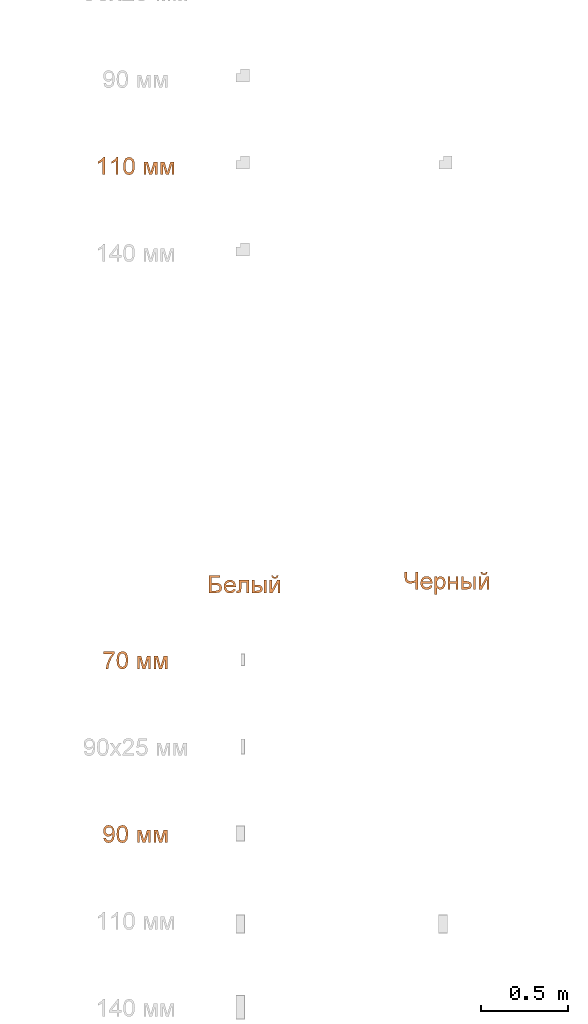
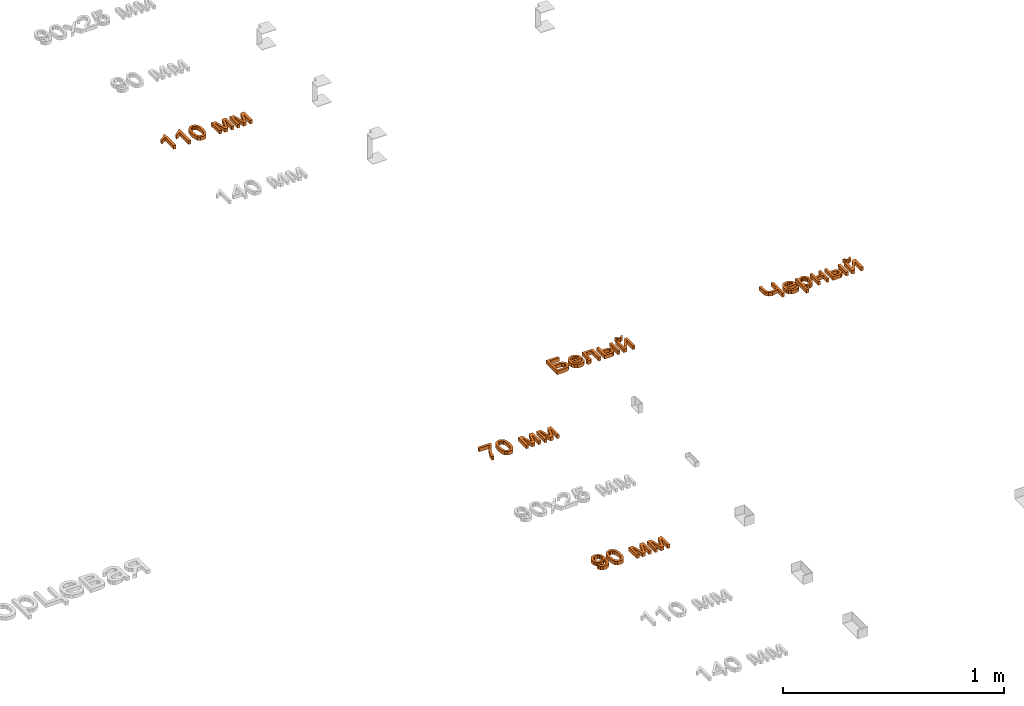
# One storey, part 38 of 87: 5 proxies.
"""IFC2X3 building model written with IfcOpenShell, lengths in millimetres."""

from ifc_helpers import new_model, entity, si_unit, converted_unit, derived_unit, direction, frame, frame_2d, origin, place, context, subcontext, project, spatial, polyline, rectangle, outline, extrude, element, save


model = new_model("IFC2X3")

# Units and contexts
model_context = context("Model", 3, precision=0.01, world=origin(), true_north=direction((6.12303176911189e-17, 1.0)))
body_context = subcontext(model_context, "Body", "Model", "MODEL_VIEW")
ifc_project = project(units=[si_unit("LENGTHUNIT", "METRE", prefix="MILLI"), si_unit("AREAUNIT", "SQUARE_METRE"), si_unit("VOLUMEUNIT", "CUBIC_METRE"), converted_unit("PLANEANGLEUNIT", "DEGREE", entity("IfcRatioMeasure", 0.0174532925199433), si_unit("PLANEANGLEUNIT", "RADIAN"), dimensions=[0, 0, 0, 0, 0, 0, 0]), si_unit("MASSUNIT", "GRAM", prefix="KILO"), derived_unit("MASSDENSITYUNIT", [(si_unit("MASSUNIT", "GRAM", prefix="KILO"), 1), (si_unit("LENGTHUNIT", "METRE"), -3)]), si_unit("TIMEUNIT", "SECOND"), si_unit("FREQUENCYUNIT", "HERTZ"), si_unit("THERMODYNAMICTEMPERATUREUNIT", "DEGREE_CELSIUS"), derived_unit("THERMALTRANSMITTANCEUNIT", [(si_unit("MASSUNIT", "GRAM", prefix="KILO"), 1), (si_unit("THERMODYNAMICTEMPERATUREUNIT", "KELVIN"), -1), (si_unit("TIMEUNIT", "SECOND"), -3)]), derived_unit("VOLUMETRICFLOWRATEUNIT", [(si_unit("LENGTHUNIT", "METRE"), 3), (si_unit("TIMEUNIT", "SECOND"), -1)]), si_unit("ELECTRICCURRENTUNIT", "AMPERE"), si_unit("ELECTRICVOLTAGEUNIT", "VOLT"), si_unit("POWERUNIT", "WATT"), si_unit("FORCEUNIT", "NEWTON", prefix="KILO"), si_unit("ILLUMINANCEUNIT", "LUX"), si_unit("LUMINOUSFLUXUNIT", "LUMEN"), si_unit("LUMINOUSINTENSITYUNIT", "CANDELA"), derived_unit("USERDEFINED", [(si_unit("MASSUNIT", "GRAM", prefix="KILO"), -1), (si_unit("LENGTHUNIT", "METRE"), -2), (si_unit("TIMEUNIT", "SECOND"), 3), (si_unit("LUMINOUSFLUXUNIT", "LUMEN"), 1)]), derived_unit("LINEARVELOCITYUNIT", [(si_unit("LENGTHUNIT", "METRE"), 1), (si_unit("TIMEUNIT", "SECOND"), -1)]), si_unit("PRESSUREUNIT", "PASCAL"), derived_unit("USERDEFINED", [(si_unit("LENGTHUNIT", "METRE"), -2), (si_unit("MASSUNIT", "GRAM", prefix="KILO"), 1), (si_unit("TIMEUNIT", "SECOND"), -2)])], contexts=[model_context])

# Site, building, storey
site_placement = place(None, origin())
site = spatial("IfcSite", under=ifc_project, at=site_placement, Name="Default", CompositionType="ELEMENT")
building_placement = place(site_placement, origin())
building = spatial("IfcBuilding", under=site, at=building_placement, Name="Наименование здания", CompositionType="ELEMENT")
storey_placement = place(building_placement, origin())
storey = spatial("IfcBuildingStorey", under=building, at=storey_placement, Name="Этаж 01", CompositionType="ELEMENT", Elevation=0.0)

# Proxies
proxy_1_placement = place(storey_placement, origin())
element("IfcBuildingElementProxy", 1, at=proxy_1_placement, inside=storey, Name="Текст модели:100 мм Arial", ObjectType="Текст модели:100 мм Arial", context=body_context, shape_type="SweptSolid", body=[
    extrude(outline(polyline([(-63.8793021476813, -16.9184842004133), (36.577008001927, -16.9184842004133), (36.577008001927, -8.82508030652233), (23.2106288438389, 2.34626961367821), (11.4629304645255, 20.7526321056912), (-0.407395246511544, 20.7526321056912), (5.93243780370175, 7.53340574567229), (14.4059864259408, -4.36144543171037), (-63.8793021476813, -4.36144543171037), (-63.8793021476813, -16.9184842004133)])), frame((12193.7741888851, -14659.1581208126, 0.0), z_axis=(0.0, 0.0, 1.0), x_axis=(0.0, 1.0, 0.0)), (0.0, 0.0, 1.0), 20.0),
    extrude(outline(polyline([(-63.8793021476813, -16.9184842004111), (36.577008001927, -16.9184842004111), (36.577008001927, -8.82508030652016), (23.2106288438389, 2.34626961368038), (11.4629304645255, 20.7526321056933), (-0.407395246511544, 20.7526321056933), (5.93243780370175, 7.53340574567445), (14.4059864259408, -4.3614454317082), (-63.8793021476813, -4.3614454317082), (-63.8793021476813, -16.9184842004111)])), frame((12270.6860513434, -14659.1581208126, 0.0), z_axis=(0.0, 0.0, 1.0), x_axis=(0.0, 1.0, 0.0)), (0.0, 0.0, 1.0), 20.0),
    extrude(outline(polyline([(-7.02884310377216, -33.3490673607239), (17.5323805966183, -33.3490673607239), (35.1984171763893, -27.6137612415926), (43.3439841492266, -18.4876517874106), (47.0516941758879, -5.75150665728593), (46.7162020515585, 4.4863820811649), (43.4465778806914, 13.0955287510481), (27.9444305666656, 25.6659118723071), (-0.314338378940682, 32.2325535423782), (-24.0296505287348, 32.3678288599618), (-39.4143020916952, 28.0260881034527), (-49.7293680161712, 18.9002174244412), (-54.4436715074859, 4.63998875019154), (-50.8676582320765, -14.1301059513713), (-35.4058547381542, -26.7333390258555), (-7.02884310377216, -33.3490673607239)]), holes=[polyline([(-5.77428774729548, -20.8548320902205), (-25.015764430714, -17.3562860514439), (-36.7257089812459, -11.5717922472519), (-41.096258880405, -4.77599682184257), (-41.9669219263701, 3.21464792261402), (-39.2244253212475, 11.2791292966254), (-32.865406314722, 17.2229259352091), (-20.969837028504, 20.2947501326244), (-1.61768958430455, 19.7433141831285), (17.8514140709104, 16.2707701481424), (28.7803640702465, 10.7141596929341), (33.5546988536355, 3.61815959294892), (34.5599568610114, -4.47255337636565), (31.9421230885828, -12.1923199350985), (25.8471825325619, -18.1754808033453), (14.0250679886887, -21.4027476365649), (-5.77428774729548, -20.8548320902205)])]), frame((12351.319040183, -14677.21424602, 0.0), z_axis=(0.0, 0.0, 1.0), x_axis=(0.1018515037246, -0.994799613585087, 0.0)), (0.0, 0.0, 1.0), 20.0),
    extrude(outline(polyline([(-40.5839870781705, -38.4502715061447), (33.1886156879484, -38.4502715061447), (33.1886156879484, -25.893232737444), (-29.0570178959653, -25.893232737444), (33.1886156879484, -8.6273044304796), (33.1886156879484, 7.85380895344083), (-26.2120637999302, 25.9045521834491), (33.1886156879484, 25.9045521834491), (33.1886156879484, 38.4615909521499), (-40.5839870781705, 38.4615909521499), (-40.5839870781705, 17.7620973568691), (18.4733358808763, -0.190544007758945), (-40.5839870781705, -16.8433356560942), (-40.5839870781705, -38.4502715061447)])), frame((12475.1696424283, -14689.8488072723, 0.0), z_axis=(0.0, 0.0, 1.0), x_axis=(0.0, -1.0, 0.0)), (0.0, 0.0, 1.0), 20.0),
    extrude(outline(polyline([(-40.5839870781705, -38.4502715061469), (33.1886156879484, -38.4502715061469), (33.1886156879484, -25.8932327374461), (-29.0570178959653, -25.8932327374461), (33.1886156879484, -8.62730443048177), (33.1886156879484, 7.85380895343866), (-26.2120637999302, 25.904552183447), (33.1886156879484, 25.904552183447), (33.1886156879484, 38.4615909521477), (-40.5839870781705, 38.4615909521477), (-40.5839870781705, 17.762097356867), (18.4733358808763, -0.19054400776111), (-40.5839870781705, -16.8433356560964), (-40.5839870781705, -38.4502715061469)])), frame((12570.9170630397, -14689.8488072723, 0.0), z_axis=(0.0, 0.0, 1.0), x_axis=(0.0, -1.0, 0.0)), (0.0, 0.0, 1.0), 20.0),
])
proxy_2_placement = place(storey_placement, origin())
element("IfcBuildingElementProxy", 2, at=proxy_2_placement, inside=storey, Name="Текст модели:100 мм Arial", ObjectType="Текст модели:100 мм Arial", context=body_context, shape_type="SweptSolid", body=[
    extrude(outline(polyline([(-33.1249866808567, -28.4339338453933), (-33.1249866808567, -40.9909726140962), (32.7994668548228, -40.9909726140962), (32.7994668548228, -30.8374295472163), (14.0987987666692, -3.8226283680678), (-0.211810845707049, 30.5988636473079), (-4.87164945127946, 57.8957076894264), (-17.4286882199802, 57.8957076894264), (-12.4377558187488, 29.5687940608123), (1.2597171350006, -2.44920225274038), (20.2424280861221, -28.4339338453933), (-33.1249866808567, -28.4339338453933)])), frame((12235.1846956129, -17508.5531781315, 0.0), z_axis=(0.0, 0.0, -1.0), x_axis=(1.0, 0.0, 0.0)), (0.0, 0.0, -1.0), 20.0),
    extrude(outline(polyline([(-7.02884310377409, -33.3490673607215), (17.5323805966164, -33.3490673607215), (35.1984171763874, -27.6137612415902), (43.3439841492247, -18.4876517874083), (47.0516941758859, -5.75150665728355), (46.7162020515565, 4.48638208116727), (43.4465778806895, 13.0955287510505), (27.9444305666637, 25.6659118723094), (-0.314338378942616, 32.2325535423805), (-24.0296505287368, 32.3678288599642), (-39.4143020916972, 28.0260881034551), (-49.7293680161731, 18.9002174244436), (-54.4436715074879, 4.63998875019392), (-50.8676582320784, -14.1301059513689), (-35.4058547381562, -26.7333390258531), (-7.02884310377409, -33.3490673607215)]), holes=[polyline([(-5.77428774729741, -20.8548320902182), (-25.0157644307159, -17.3562860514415), (-36.7257089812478, -11.5717922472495), (-41.0962588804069, -4.7759968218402), (-41.966921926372, 3.21464792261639), (-39.2244253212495, 11.2791292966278), (-32.8654063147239, 17.2229259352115), (-20.969837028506, 20.2947501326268), (-1.61768958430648, 19.7433141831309), (17.8514140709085, 16.2707701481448), (28.7803640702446, 10.7141596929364), (33.5546988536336, 3.61815959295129), (34.5599568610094, -4.47255337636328), (31.9421230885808, -12.1923199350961), (25.84718253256, -18.1754808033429), (14.0250679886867, -21.4027476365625), (-5.77428774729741, -20.8548320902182)])]), frame((12312.8631089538, -17520.6257088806, 0.0), z_axis=(0.0, 0.0, 1.0), x_axis=(0.1018515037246, -0.994799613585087, 0.0)), (0.0, 0.0, 1.0), 20.0),
    extrude(outline(polyline([(-40.5839870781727, -38.4502715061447), (33.1886156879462, -38.4502715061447), (33.1886156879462, -25.893232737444), (-29.0570178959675, -25.893232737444), (33.1886156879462, -8.6273044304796), (33.1886156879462, 7.85380895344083), (-26.2120637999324, 25.9045521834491), (33.1886156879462, 25.9045521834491), (33.1886156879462, 38.4615909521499), (-40.5839870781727, 38.4615909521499), (-40.5839870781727, 17.7620973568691), (18.4733358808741, -0.190544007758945), (-40.5839870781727, -16.8433356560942), (-40.5839870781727, -38.4502715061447)])), frame((12436.7137111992, -17533.260270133, 0.0), z_axis=(0.0, 0.0, 1.0), x_axis=(0.0, -1.0, 0.0)), (0.0, 0.0, 1.0), 20.0),
    extrude(outline(polyline([(-40.5839870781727, -38.4502715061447), (33.1886156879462, -38.4502715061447), (33.1886156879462, -25.893232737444), (-29.0570178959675, -25.893232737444), (33.1886156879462, -8.6273044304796), (33.1886156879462, 7.85380895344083), (-26.2120637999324, 25.904552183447), (33.1886156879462, 25.904552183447), (33.1886156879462, 38.4615909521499), (-40.5839870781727, 38.4615909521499), (-40.5839870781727, 17.7620973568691), (18.4733358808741, -0.190544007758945), (-40.5839870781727, -16.8433356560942), (-40.5839870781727, -38.4502715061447)])), frame((12532.4611318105, -17533.260270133, 0.0), z_axis=(0.0, 0.0, 1.0), x_axis=(0.0, -1.0, 0.0)), (0.0, 0.0, 1.0), 20.0),
])
proxy_3_placement = place(storey_placement, origin())
element("IfcBuildingElementProxy", 3, at=proxy_3_placement, inside=storey, Name="Текст модели:100 мм Arial", ObjectType="Текст модели:100 мм Arial", context=body_context, shape_type="SweptSolid", body=[
    extrude(outline(polyline([(5.58296908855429, -31.7859506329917), (17.2387167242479, -31.7859506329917), (26.9216142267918, -28.1739915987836), (34.2072820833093, -21.2554963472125), (38.6713407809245, -11.335887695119), (39.9245387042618, -0.903731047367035), (37.9450282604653, 8.92661895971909), (32.7793953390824, 17.8190246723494), (24.4742258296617, 25.437348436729), (-3.90517077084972, 37.365916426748), (-32.1440557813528, 40.5619140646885), (-49.7769073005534, 32.5319597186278), (-59.4683269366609, 16.6032994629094), (-60.449988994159, 4.02951589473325), (-56.4016296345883, -7.53444362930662), (-47.8362588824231, -16.8026666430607), (-35.2668867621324, -22.4892406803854), (-21.9841856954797, -23.8222776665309), (-10.3310965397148, -20.2832716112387), (-1.40106329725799, -12.8047998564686), (3.71247002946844, -2.31943974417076), (3.73902096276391, 11.9281903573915), (-2.85997612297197, 24.0883984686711), (-0.471643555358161, 23.5260231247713), (13.1334133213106, 18.0099957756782), (22.6158894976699, 11.2224941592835), (27.0079821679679, 2.91452909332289), (26.6924060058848, -7.52395807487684), (20.3410079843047, -16.8945474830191), (7.30988926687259, -19.2495752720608), (5.58296908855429, -31.7859506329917)]), holes=[polyline([(-21.7672208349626, 29.1433710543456), (-13.9803799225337, 25.5922442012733), (-8.91107638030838, 19.8291378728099), (-7.47464573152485, 4.45415101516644), (-10.9717321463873, -3.43916536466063), (-16.5473789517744, -8.7331221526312), (-23.57581367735, -11.1761402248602), (-31.4312638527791, -10.5166404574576), (-39.4119601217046, -6.85973803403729), (-44.9206699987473, -0.817312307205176), (-47.5297596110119, 6.8362474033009), (-46.8115950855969, 15.3265517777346), (-43.378182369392, 22.779928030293), (-37.7148363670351, 27.7965691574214), (-30.3387761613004, 30.0324064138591), (-21.7672208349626, 29.1433710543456)])]), frame((12232.8947602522, -18527.7314518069, 0.0), z_axis=(0.0, 0.0, 1.0), x_axis=(0.258284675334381, -0.966068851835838, 0.0)), (0.0, 0.0, 1.0), 20.0),
    extrude(outline(polyline([(-7.02884310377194, -33.3490673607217), (17.5323805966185, -33.3490673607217), (35.1984171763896, -27.6137612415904), (43.3439841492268, -18.4876517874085), (47.0516941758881, -5.75150665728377), (46.7162020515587, 4.48638208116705), (43.4465778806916, 13.0955287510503), (27.9444305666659, 25.6659118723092), (-0.314338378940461, 32.2325535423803), (-24.0296505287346, 32.367828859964), (-39.414302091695, 28.0260881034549), (-49.7293680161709, 18.9002174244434), (-54.4436715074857, 4.6399887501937), (-50.8676582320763, -14.1301059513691), (-35.405854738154, -26.7333390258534), (-7.02884310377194, -33.3490673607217)]), holes=[polyline([(-5.77428774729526, -20.8548320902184), (-25.0157644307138, -17.3562860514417), (-36.7257089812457, -11.5717922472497), (-41.0962588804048, -4.77599682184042), (-41.9669219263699, 3.21464792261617), (-39.2244253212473, 11.2791292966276), (-32.8654063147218, 17.2229259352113), (-20.9698370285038, 20.2947501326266), (-1.61768958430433, 19.7433141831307), (17.8514140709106, 16.2707701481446), (28.7803640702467, 10.7141596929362), (33.5546988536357, 3.61815959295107), (34.5599568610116, -4.4725533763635), (31.942123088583, -12.1923199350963), (25.8471825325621, -18.1754808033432), (14.0250679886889, -21.4027476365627), (-5.77428774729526, -20.8548320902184)])]), frame((12312.8631089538, -18520.6257088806, 0.0), z_axis=(0.0, 0.0, 1.0), x_axis=(0.1018515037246, -0.994799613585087, 0.0)), (0.0, 0.0, 1.0), 20.0),
    extrude(outline(polyline([(-40.5839870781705, -38.4502715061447), (33.1886156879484, -38.4502715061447), (33.1886156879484, -25.893232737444), (-29.0570178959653, -25.893232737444), (33.1886156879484, -8.6273044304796), (33.1886156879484, 7.85380895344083), (-26.2120637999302, 25.9045521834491), (33.1886156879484, 25.9045521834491), (33.1886156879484, 38.4615909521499), (-40.5839870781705, 38.4615909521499), (-40.5839870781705, 17.7620973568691), (18.4733358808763, -0.190544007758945), (-40.5839870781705, -16.8433356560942), (-40.5839870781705, -38.4502715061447)])), frame((12436.7137111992, -18533.260270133, 0.0), z_axis=(0.0, 0.0, 1.0), x_axis=(0.0, -1.0, 0.0)), (0.0, 0.0, 1.0), 20.0),
    extrude(outline(polyline([(-40.5839870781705, -38.4502715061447), (33.1886156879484, -38.4502715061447), (33.1886156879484, -25.893232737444), (-29.0570178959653, -25.893232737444), (33.1886156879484, -8.6273044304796), (33.1886156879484, 7.85380895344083), (-26.2120637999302, 25.904552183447), (33.1886156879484, 25.904552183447), (33.1886156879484, 38.4615909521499), (-40.5839870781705, 38.4615909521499), (-40.5839870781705, 17.7620973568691), (18.4733358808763, -0.190544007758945), (-40.5839870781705, -16.8433356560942), (-40.5839870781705, -38.4502715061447)])), frame((12532.4611318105, -18533.260270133, 0.0), z_axis=(0.0, 0.0, 1.0), x_axis=(0.0, -1.0, 0.0)), (0.0, 0.0, 1.0), 20.0),
])
proxy_4_placement = place(storey_placement, origin())
element("IfcBuildingElementProxy", 4, at=proxy_4_placement, inside=storey, Name="Текст модели:100 мм Arial", ObjectType="Текст модели:100 мм Arial", context=body_context, shape_type="SweptSolid", body=[
    extrude(outline(polyline([(-50.9950475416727, -42.7620371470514), (49.4612626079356, -42.7620371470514), (49.4612626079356, -4.42873324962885), (45.2428823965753, 17.8649156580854), (34.3658380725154, 27.7118903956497), (20.0552284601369, 31.0105656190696), (3.57411507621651, 26.3752524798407), (-6.06439319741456, 14.0389429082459), (-8.61504169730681, -6.68507615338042), (-8.61504169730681, -30.2049983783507), (-38.4380087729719, -30.2049983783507), (-38.4380087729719, 20.0231566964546), (-50.9950475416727, 20.0231566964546), (-50.9950475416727, -42.7620371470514)]), holes=[polyline([(36.9042238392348, -30.2049983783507), (3.94199707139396, -30.2049983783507), (3.94199707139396, -12.2523570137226), (5.2418467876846, 6.66904027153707), (10.4902965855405, 15.3387926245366), (20.3250085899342, 18.4535268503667), (27.5784152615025, 17.0923634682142), (32.7594200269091, 13.0088733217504), (36.9042238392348, -3.30056179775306), (36.9042238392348, -30.2049983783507)])]), frame((12853.8285451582, -17080.5776271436, 0.0), z_axis=(0.0, 0.0, 1.0), x_axis=(0.0, -1.0, 0.0)), (0.0, 0.0, 1.0), 20.0),
    extrude(outline(polyline([(-8.10128238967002, -20.3751729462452), (-15.5352214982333, -30.3140016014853), (-5.78400372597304, -33.5775071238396), (4.12185089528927, -33.3132173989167), (13.8776168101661, -29.4480778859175), (23.1785684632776, -21.9090340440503), (31.6380426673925, -9.5923795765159), (34.162048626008, 3.74135328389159), (30.6040508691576, 17.244220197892), (20.8175139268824, 30.0682768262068), (7.27698270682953, 39.7846728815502), (-6.66179525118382, 43.1117813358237), (-19.9642596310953, 40.4221234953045), (-31.5958501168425, 32.0882206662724), (-39.2435519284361, 20.5090048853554), (-41.3106827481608, 7.34319797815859), (-37.4373707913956, -6.34962495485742), (-27.2637442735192, -19.5098888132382), (-24.7804584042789, -21.8106804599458), (14.464327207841, 18.7422646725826), (19.7071986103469, 10.6437992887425), (21.1614672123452, 2.21005051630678), (19.1472085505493, -5.98136753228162), (13.9844981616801, -13.3528407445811), (3.53684605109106, -20.3751729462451), (-8.10128238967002, -20.3751729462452)]), holes=[polyline([(5.44081225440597, 27.4746984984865), (-25.1227061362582, -4.10760383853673), (-29.8038819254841, 7.41909510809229), (-27.8851342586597, 15.7498710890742), (-22.5382240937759, 23.3910349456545), (-8.40970331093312, 31.2368652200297), (-1.08072680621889, 30.9147288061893), (5.44081225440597, 27.4746984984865)])]), frame((12931.9105930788, -17099.7163389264, 0.0), z_axis=(0.0, 0.0, -1.0), x_axis=(-0.695421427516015, -0.71860214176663, 0.0)), (0.0, 0.0, -1.0), 20.0),
    extrude(outline(polyline([(-49.3689973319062, 12.5447760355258), (-49.3689973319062, -43.9618984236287), (24.3300290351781, -43.9618984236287), (24.3300290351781, -31.404859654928), (-36.8119585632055, -31.404859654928), (-36.8119585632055, -0.0122627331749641), (-1.6179143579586, -0.0122627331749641), (14.6179443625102, 0.833865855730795), (21.4728122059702, 5.4814417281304), (24.4036054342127, 16.4688506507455), (23.7659433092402, 26.6714446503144), (11.8465666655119, 26.6714446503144), (11.8465666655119, 21.0551128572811), (11.0740144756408, 15.3774673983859), (8.62146784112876, 13.1088617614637), (-2.32915288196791, 12.5447760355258), (-49.3689973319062, 12.5447760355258)])), frame((12996.2705671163, -17105.6352843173, 0.0), z_axis=(0.0, 0.0, -1.0), x_axis=(0.0, -1.0, 0.0)), (0.0, 0.0, -1.0), 20.0),
    extrude(outline(polyline([(-42.39887158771, -34.5139341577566), (31.3737311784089, -34.5139341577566), (31.3737311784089, -3.73447389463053), (29.653882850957, 9.31613988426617), (24.4943378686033, 18.2526066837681), (16.9129030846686, 23.4121516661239), (7.92738535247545, 25.1319999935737), (-1.9410491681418, 23.0810578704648), (-9.42438208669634, 16.9282315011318), (-14.1424686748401, 6.98622058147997), (-15.7151642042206, -6.43227519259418), (-15.7151642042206, -21.9568953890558), (-42.39887158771, -21.9568953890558), (-42.39887158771, -34.5139341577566)]), holes=[polyline([(18.8166924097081, -21.9568953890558), (-3.15812543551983, -21.9568953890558), (-3.15812543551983, -7.41329384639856), (0.226388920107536, 8.88387853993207), (7.95191081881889, 12.5749612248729), (16.1802047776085, 7.59629155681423), (18.8166924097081, -9.05650009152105), (18.8166924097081, -21.9568953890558)])]), frame((13093.5819578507, -17098.6651585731, 0.0), z_axis=(0.0, 0.0, 1.0), x_axis=(0.0, -1.0, 0.0)), (0.0, 0.0, 1.0), 20.0),
    extrude(outline(polyline([(-11.1429830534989, -6.65049913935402), (-15.3141401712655, -15.0941956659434), (-0.092219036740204, -15.8161107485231), (10.2631635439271, -5.84547547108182), (12.416217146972, 9.42172447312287), (2.76087400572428, 21.4951559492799), (-1.41028311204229, 13.0514594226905), (3.36929976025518, 6.75127419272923), (2.31913688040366, -0.662833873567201), (-3.16906596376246, -6.65049913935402), (-11.1429830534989, -6.65049913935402)])), frame((13189.4368188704, -17036.6275198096, 0.0), z_axis=(0.0, 0.0, -1.0), x_axis=(-0.442902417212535, -0.896569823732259, 0.0)), (0.0, 0.0, -1.0), 20.0),
    extrude(outline(polyline([(-36.9206370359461, -29.8425874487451), (36.8519657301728, -29.8425874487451), (36.8519657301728, -13.4105249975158), (-19.0660975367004, 17.2463079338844), (36.8519657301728, 17.2463079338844), (36.8519657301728, 29.8033467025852), (-36.9206370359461, 29.8033467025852), (-36.9206370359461, 13.5674879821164), (19.3407827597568, -17.2855486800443), (-36.9206370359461, -17.2855486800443), (-36.9206370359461, -29.8425874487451)])), frame((13189.3669212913, -17093.1869240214, 0.0), z_axis=(0.0, 0.0, 1.0), x_axis=(0.0, -1.0, 0.0)), (0.0, 0.0, 1.0), 20.0),
    extrude(rectangle(XDim=73.7726027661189, YDim=12.5570387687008, at=frame_2d((1.08357767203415e-12, -1.08268949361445e-12), x_axis=(1.0, 0.0))), frame((13134.4102563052, -17093.1525883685, 0.0), z_axis=(0.0, 0.0, 1.0), x_axis=(0.0, -1.0, 0.0)), (0.0, 0.0, 1.0), 20.0),
])
proxy_5_placement = place(storey_placement, origin())
element("IfcBuildingElementProxy", 5, at=proxy_5_placement, inside=storey, Name="Текст модели:100 мм Arial", ObjectType="Текст модели:100 мм Arial", context=body_context, shape_type="SweptSolid", body=[
    extrude(outline(polyline([(-57.0521744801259, -41.5683661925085), (43.4041356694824, -41.5683661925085), (43.4041356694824, -29.0113274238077), (-5.30344049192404, -29.0113274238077), (-11.5329089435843, 0.689012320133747), (-6.37029827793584, 15.1835629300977), (1.59741260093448, 19.7085114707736), (15.1753239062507, 21.2168276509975), (43.4041356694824, 21.2168276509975), (43.4041356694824, 33.7738664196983), (13.483066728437, 33.7738664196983), (-6.51745107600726, 31.0883278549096), (-19.1235407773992, 20.4442754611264), (-24.0899477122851, 2.0869639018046), (-16.8304096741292, -29.0113274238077), (-57.0521744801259, -29.0113274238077), (-57.0521744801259, -41.5683661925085)])), frame((13970.0647556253, -17052.4886663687, 0.0), z_axis=(0.0, 0.0, 1.0), x_axis=(0.0, 1.0, 0.0)), (0.0, 0.0, 1.0), 20.0),
    extrude(outline(polyline([(-8.10128238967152, -20.3751729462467), (-15.5352214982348, -30.3140016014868), (-5.78400372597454, -33.5775071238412), (4.12185089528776, -33.3132173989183), (13.8776168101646, -29.448077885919), (23.1785684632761, -21.9090340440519), (31.638042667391, -9.59237957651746), (34.1620486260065, 3.74135328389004), (30.6040508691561, 17.2442201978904), (20.8175139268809, 30.0682768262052), (7.27698270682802, 39.7846728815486), (-6.66179525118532, 43.1117813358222), (-19.9642596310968, 40.4221234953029), (-31.595850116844, 32.0882206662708), (-39.2435519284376, 20.5090048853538), (-41.3106827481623, 7.34319797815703), (-37.4373707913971, -6.34962495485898), (-27.2637442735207, -19.5098888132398), (-24.7804584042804, -21.8106804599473), (14.4643272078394, 18.7422646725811), (19.7071986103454, 10.643799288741), (21.1614672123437, 2.21005051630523), (19.1472085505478, -5.98136753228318), (13.9844981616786, -13.3528407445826), (3.53684605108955, -20.3751729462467), (-8.10128238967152, -20.3751729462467)]), holes=[polyline([(5.44081225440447, 27.4746984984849), (-25.1227061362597, -4.10760383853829), (-29.8038819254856, 7.41909510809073), (-27.8851342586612, 15.7498710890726), (-22.5382240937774, 23.391034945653), (-8.40970331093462, 31.2368652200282), (-1.0807268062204, 30.9147288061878), (5.44081225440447, 27.4746984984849)])]), frame((14063.4134936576, -17079.2182900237, 0.0), z_axis=(0.0, 0.0, -1.0), x_axis=(-0.695421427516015, -0.71860214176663, 0.0)), (0.0, 0.0, -1.0), 20.0),
    extrude(outline(polyline([(-28.8983569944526, -61.2335493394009), (-16.3413182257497, -61.2335493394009), (-16.3413182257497, -23.1700255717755), (-8.38280439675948, -31.3247431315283), (2.54329085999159, -34.5498419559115), (18.4235303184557, -29.7305878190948), (29.9259740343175, -15.8736993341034), (33.8868368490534, 4.47017499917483), (30.3796951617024, 23.8207679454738), (19.9808974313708, 37.5059781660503), (4.06386977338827, 42.3620205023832), (-7.65930313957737, 38.8916670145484), (-16.3413182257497, 28.4806065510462), (-16.3413182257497, 40.7923906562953), (-28.8983569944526, 40.7923906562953), (-28.8983569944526, -61.2335493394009)]), holes=[polyline([(-16.3413182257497, 3.31747808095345), (-14.891250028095, 14.7064915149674), (-10.5410454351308, 23.023690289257), (-4.30851130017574, 28.1096588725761), (2.78854552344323, 29.8049817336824), (9.85801119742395, 28.2108264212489), (15.8606190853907, 23.4283604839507), (19.9625033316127, 15.4453211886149), (21.3297980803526, 4.24944580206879), (19.928780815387, -7.4308075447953), (15.7257290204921, -15.5916564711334), (9.56063991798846, -20.3925165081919), (2.27351073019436, -21.9928031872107), (-4.89712249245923, -20.4476988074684), (-10.9089274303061, -15.8123856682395), (-14.9832205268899, -7.93971097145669), (-16.3413182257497, 3.31747808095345)])]), frame((14137.8485292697, -17076.560628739, 0.0)), (0.0, 0.0, 1.0), 20.0),
    extrude(outline(polyline([(-36.1014864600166, -29.0381521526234), (37.6711163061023, -29.0381521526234), (37.6711163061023, -16.4811133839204), (4.70888953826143, -16.4811133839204), (4.70888953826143, 16.4811133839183), (37.6711163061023, 16.4811133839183), (37.6711163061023, 29.0381521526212), (-36.1014864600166, 29.0381521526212), (-36.1014864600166, 16.4811133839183), (-7.84814923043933, 16.4811133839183), (-7.84814923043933, -16.4811133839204), (-36.1014864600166, -16.4811133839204), (-36.1014864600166, -29.0381521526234)])), frame((14214.9001868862, -17071.8697245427, 0.0), z_axis=(0.0, 0.0, 1.0), x_axis=(0.0, -1.0, 0.0)), (0.0, 0.0, 1.0), 20.0),
    extrude(outline(polyline([(-42.39887158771, -34.5139341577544), (31.3737311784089, -34.5139341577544), (31.3737311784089, -3.73447389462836), (29.653882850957, 9.31613988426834), (24.4943378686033, 18.2526066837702), (16.9129030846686, 23.4121516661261), (7.92738535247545, 25.131999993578), (-1.9410491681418, 23.081057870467), (-9.42438208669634, 16.928231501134), (-14.1424686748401, 6.98622058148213), (-15.7151642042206, -6.43227519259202), (-15.7151642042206, -21.9568953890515), (-42.39887158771, -21.9568953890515), (-42.39887158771, -34.5139341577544)]), holes=[polyline([(18.8166924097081, -21.9568953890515), (-3.15812543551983, -21.9568953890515), (-3.15812543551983, -7.41329384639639), (0.226388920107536, 8.8838785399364), (7.95191081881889, 12.5749612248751), (16.1802047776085, 7.5962915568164), (18.8166924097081, -9.05650009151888), (18.8166924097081, -21.9568953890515)])]), frame((14297.2878313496, -17078.1671096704, 0.0), z_axis=(0.0, 0.0, 1.0), x_axis=(0.0, -1.0, 0.0)), (0.0, 0.0, 1.0), 20.0),
    extrude(outline(polyline([(-11.142983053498, -6.65049913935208), (-15.3141401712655, -15.0941956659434), (-0.0922190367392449, -15.8161107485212), (10.2631635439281, -5.84547547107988), (12.416217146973, 9.42172447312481), (2.76087400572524, 21.4951559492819), (-1.41028311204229, 13.0514594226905), (3.36929976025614, 6.75127419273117), (2.31913688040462, -0.662833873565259), (-3.1690659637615, -6.65049913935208), (-11.142983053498, -6.65049913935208)])), frame((14393.1426923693, -17016.1294709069, 0.0), z_axis=(0.0, 0.0, -1.0), x_axis=(-0.442902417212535, -0.896569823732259, 0.0)), (0.0, 0.0, -1.0), 20.0),
    extrude(outline(polyline([(-36.9206370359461, -29.8425874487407), (36.8519657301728, -29.8425874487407), (36.8519657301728, -13.4105249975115), (-19.0660975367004, 17.2463079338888), (36.8519657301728, 17.2463079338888), (36.8519657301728, 29.8033467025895), (-36.9206370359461, 29.8033467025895), (-36.9206370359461, 13.5674879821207), (19.3407827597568, -17.28554868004), (-36.9206370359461, -17.28554868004), (-36.9206370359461, -29.8425874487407)])), frame((14393.0727947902, -17072.6888751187, 0.0), z_axis=(0.0, 0.0, 1.0), x_axis=(0.0, -1.0, 0.0)), (0.0, 0.0, 1.0), 20.0),
    extrude(rectangle(XDim=73.7726027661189, YDim=12.5570387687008, at=frame_2d((1.08357767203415e-12, 1.08268949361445e-12), x_axis=(1.0, 0.0))), frame((14338.1161298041, -17072.6545394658, 0.0), z_axis=(0.0, 0.0, 1.0), x_axis=(0.0, -1.0, 0.0)), (0.0, 0.0, 1.0), 20.0),
])

save(model, "model.ifc")
